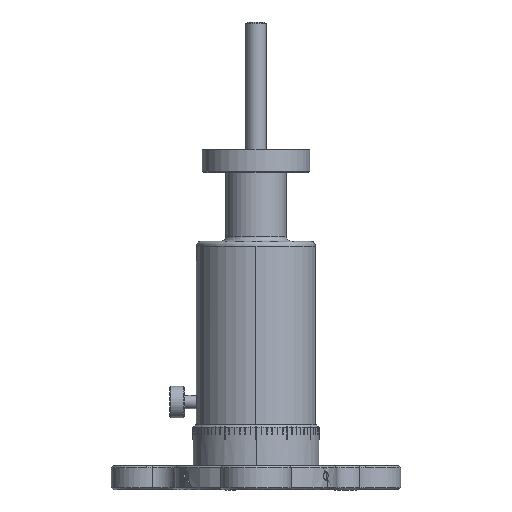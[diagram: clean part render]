
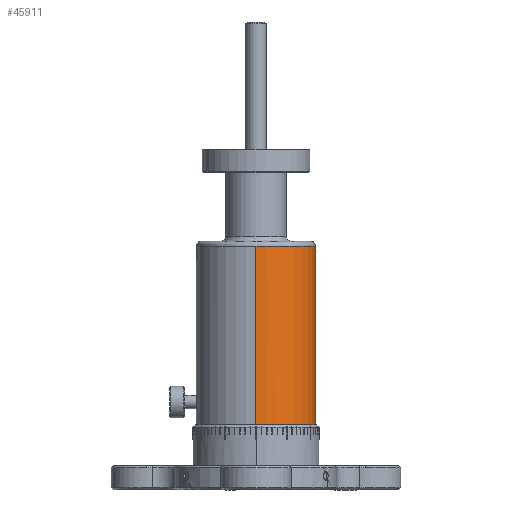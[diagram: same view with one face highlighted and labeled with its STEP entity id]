
A CAD part, front view. The second image highlights one B-rep face of the part: STEP entity #45911.
In plain terms, the highlighted cylindrical face has radius 18.733 mm (diameter 37.465 mm), a partial arc.
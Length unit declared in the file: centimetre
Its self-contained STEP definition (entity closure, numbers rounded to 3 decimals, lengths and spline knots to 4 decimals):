
#93 = VERTEX_POINT ( 'NONE', #5832 ) ;
#125 = VERTEX_POINT ( 'NONE', #6826 ) ;
#272 = VERTEX_POINT ( 'NONE', #9189 ) ;
#289 = VERTEX_POINT ( 'NONE', #9044 ) ;
#303 = VERTEX_POINT ( 'NONE', #8927 ) ;
#663 = VERTEX_POINT ( 'NONE', #6708 ) ;
#1153 = VERTEX_POINT ( 'NONE', #9238 ) ;
#2228 = CIRCLE ( 'NONE', #41185, 1.8733 ) ;
#2233 = CIRCLE ( 'NONE', #41184, 1.8733 ) ;
#2320 = CIRCLE ( 'NONE', #41150, 1.8733 ) ;
#2387 = CYLINDRICAL_SURFACE ( 'NONE', #41117, 1.8733 ) ;
#2388 = FACE_OUTER_BOUND ( 'NONE', #39618, .T. ) ;
#5832 = CARTESIAN_POINT ( 'NONE',  ( 0., 1.8732, -8.0899 ) ) ;
#6708 = CARTESIAN_POINT ( 'NONE',  ( 0., -1.8733, -8.6741 ) ) ;
#6826 = CARTESIAN_POINT ( 'NONE',  ( 0., 1.8732, -3.0505 ) ) ;
#8927 = CARTESIAN_POINT ( 'NONE',  ( 0.0127, 1.8732, -8.6741 ) ) ;
#9044 = CARTESIAN_POINT ( 'NONE',  ( 0., -1.8733, -3.0505 ) ) ;
#9189 = CARTESIAN_POINT ( 'NONE',  ( 1.8733, 0., -3.0505 ) ) ;
#9238 = CARTESIAN_POINT ( 'NONE',  ( 0.0127, 1.8732, -8.0899 ) ) ;
#10030 = AXIS2_PLACEMENT_3D ( 'NONE', #15954, #15958, #15962 ) ;
#10555 = DIRECTION ( 'NONE',  ( 0., -1., 0. ) ) ;
#10557 = DIRECTION ( 'NONE',  ( 0., 0., 1. ) ) ;
#10593 = CARTESIAN_POINT ( 'NONE',  ( 0., 0., -6.1697 ) ) ;
#13568 = LINE ( 'NONE', #53095, #13569 ) ;
#13569 = VECTOR ( 'NONE', #53096, 100. ) ;
#15954 = CARTESIAN_POINT ( 'NONE',  ( 0., 0., -8.6741 ) ) ;
#15958 = DIRECTION ( 'NONE',  ( 0., 0., 1. ) ) ;
#15962 = DIRECTION ( 'NONE',  ( 0., -1., 0. ) ) ;
#16936 = DIRECTION ( 'NONE',  ( 0., 0., 1. ) ) ;
#16945 = CARTESIAN_POINT ( 'NONE',  ( 0., -1.8733, -6.1697 ) ) ;
#17640 = ORIENTED_EDGE ( 'NONE', *, *, #52861, .T. ) ;
#18425 = ORIENTED_EDGE ( 'NONE', *, *, #51974, .T. ) ;
#18637 = ORIENTED_EDGE ( 'NONE', *, *, #52062, .T. ) ;
#18751 = ORIENTED_EDGE ( 'NONE', *, *, #31647, .T. ) ;
#19369 = ORIENTED_EDGE ( 'NONE', *, *, #52065, .T. ) ;
#31647 = EDGE_CURVE ( 'NONE', #303, #1153, #38009, .T. ) ;
#32129 = EDGE_CURVE ( 'NONE', #663, #289, #36901, .T. ) ;
#32310 = EDGE_CURVE ( 'NONE', #663, #303, #37290, .T. ) ;
#34182 = CARTESIAN_POINT ( 'NONE',  ( 0., 0., -8.0899 ) ) ;
#34183 = DIRECTION ( 'NONE',  ( 0., 0., 1. ) ) ;
#34185 = DIRECTION ( 'NONE',  ( 0., -1., 0. ) ) ;
#34899 = CARTESIAN_POINT ( 'NONE',  ( 0., 0., -3.0505 ) ) ;
#34900 = DIRECTION ( 'NONE',  ( 0., 0., -1. ) ) ;
#34901 = DIRECTION ( 'NONE',  ( 0., -1., 0. ) ) ;
#34921 = CARTESIAN_POINT ( 'NONE',  ( 0., 0., -3.0505 ) ) ;
#34922 = DIRECTION ( 'NONE',  ( 0., 0., -1. ) ) ;
#34923 = DIRECTION ( 'NONE',  ( 0., -1., 0. ) ) ;
#36901 = LINE ( 'NONE', #16945, #36928 ) ;
#36928 = VECTOR ( 'NONE', #16936, 100. ) ;
#37290 = CIRCLE ( 'NONE', #10030, 1.8733 ) ;
#38002 = VECTOR ( 'NONE', #56300, 100. ) ;
#38009 = LINE ( 'NONE', #57115, #38002 ) ;
#39618 = EDGE_LOOP ( 'NONE', ( #18425, #17640, #19369, #18637, #42857, #43362, #18751 ) ) ;
#41117 = AXIS2_PLACEMENT_3D ( 'NONE', #10593, #10557, #10555 ) ;
#41150 = AXIS2_PLACEMENT_3D ( 'NONE', #34182, #34183, #34185 ) ;
#41184 = AXIS2_PLACEMENT_3D ( 'NONE', #34899, #34900, #34901 ) ;
#41185 = AXIS2_PLACEMENT_3D ( 'NONE', #34921, #34922, #34923 ) ;
#42857 = ORIENTED_EDGE ( 'NONE', *, *, #32129, .F. ) ;
#43362 = ORIENTED_EDGE ( 'NONE', *, *, #32310, .T. ) ;
#45911 = ADVANCED_FACE ( 'NONE', ( #2388 ), #2387, .T. ) ;
#51974 = EDGE_CURVE ( 'NONE', #1153, #93, #2320, .T. ) ;
#52062 = EDGE_CURVE ( 'NONE', #272, #289, #2233, .T. ) ;
#52065 = EDGE_CURVE ( 'NONE', #125, #272, #2228, .T. ) ;
#52861 = EDGE_CURVE ( 'NONE', #93, #125, #13568, .T. ) ;
#53095 = CARTESIAN_POINT ( 'NONE',  ( 0., 1.8732, -6.1697 ) ) ;
#53096 = DIRECTION ( 'NONE',  ( 0., 0., 1. ) ) ;
#56300 = DIRECTION ( 'NONE',  ( 0., 0., 1. ) ) ;
#57115 = CARTESIAN_POINT ( 'NONE',  ( 0.0127, 1.8732, -6.1697 ) ) ;
